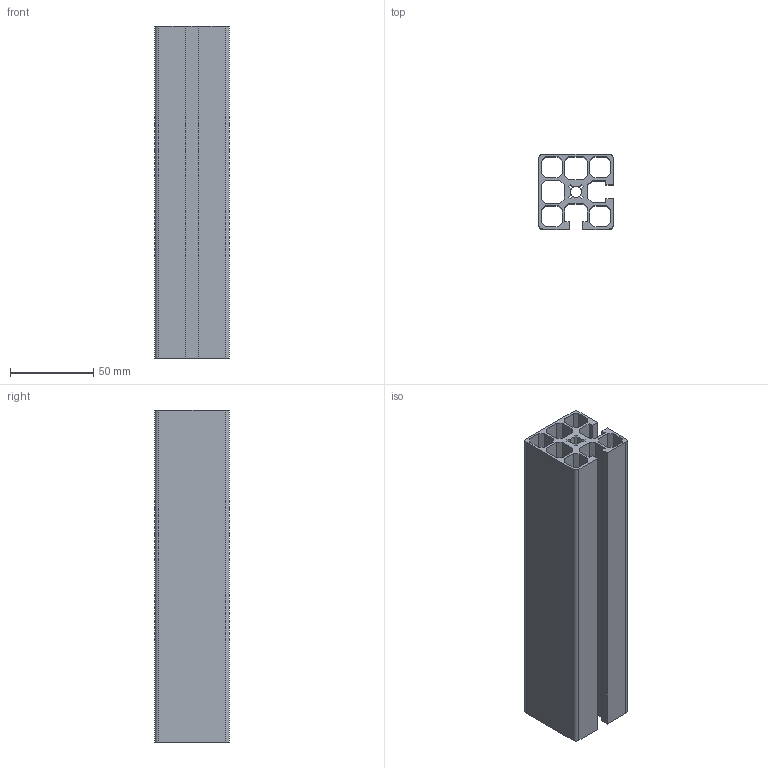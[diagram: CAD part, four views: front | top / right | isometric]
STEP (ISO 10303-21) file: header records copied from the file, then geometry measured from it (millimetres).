
FILE_DESCRIPTION (( 'STEP AP203' ), '1' );
FILE_NAME ('016076 REF 4545SL 2C.STEP', '2015-12-01T11:50:36', ( '' ), ( '' ), 'SwSTEP 2.0', 'SolidWorks 2015', '' );
FILE_SCHEMA (( 'CONFIG_CONTROL_DESIGN' ));
Length unit declared in the file: millimetre
Products named in the file (1): 016076 REF 4545SL 2C
Bounding box: 45 x 45 x 200 mm (x, y, z)
Volume: 134595.6 mm3; surface area: 114944.3 mm2
Topology: 1 solids, 1 shells, 95 faces, 279 edges, 186 vertices
Faces by surface type: plane 86, cylinder 9
Entity records: 3216 total; most frequent: CARTESIAN_POINT 561, ORIENTED_EDGE 558, DIRECTION 489, EDGE_CURVE 279, VECTOR 261, LINE 261, VERTEX_POINT 186, AXIS2_PLACEMENT_3D 114
